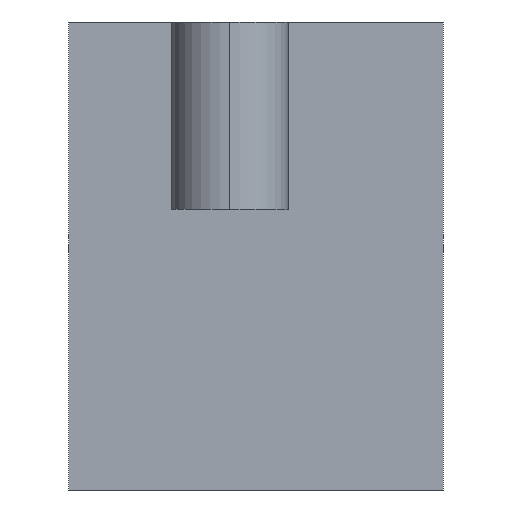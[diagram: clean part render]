
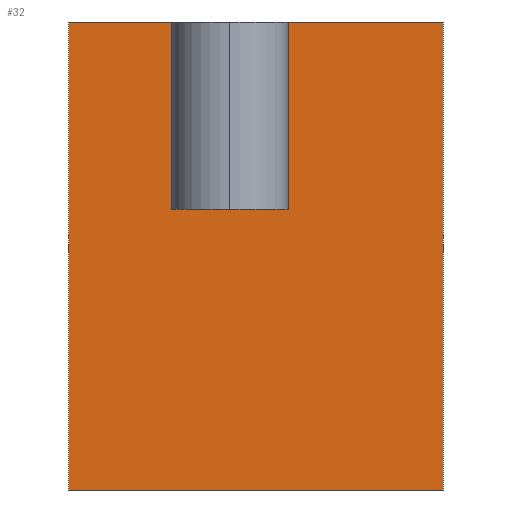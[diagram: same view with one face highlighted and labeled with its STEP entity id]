
A CAD part, left-side view. The second image highlights one B-rep face of the part: STEP entity #32.
In plain terms, the highlighted planar face has unit normal (-1, 0, 0).
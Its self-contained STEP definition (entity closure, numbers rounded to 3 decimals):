
#13 = LINE ( 'NONE', #257, #137 ) ;
#29 = CARTESIAN_POINT ( 'NONE',  ( 27.484, -43.554, -50. ) ) ;
#30 = FACE_OUTER_BOUND ( 'NONE', #92, .T. ) ;
#31 = ORIENTED_EDGE ( 'NONE', *, *, #262, .F. ) ;
#32 = ADVANCED_FACE ( 'NONE', ( #30 ), #208, .F. ) ;
#38 = LINE ( 'NONE', #314, #190 ) ;
#39 = CARTESIAN_POINT ( 'NONE',  ( 27.484, -3.554, 0. ) ) ;
#58 = CARTESIAN_POINT ( 'NONE',  ( 27.484, -43.554, 0. ) ) ;
#90 = DIRECTION ( 'NONE',  ( 0., 0., -1. ) ) ;
#92 = EDGE_LOOP ( 'NONE', ( #97, #31, #295, #114 ) ) ;
#97 = ORIENTED_EDGE ( 'NONE', *, *, #238, .T. ) ;
#109 = LINE ( 'NONE', #213, #143 ) ;
#111 = CARTESIAN_POINT ( 'NONE',  ( 27.484, -3.554, -50. ) ) ;
#114 = ORIENTED_EDGE ( 'NONE', *, *, #209, .T. ) ;
#119 = EDGE_CURVE ( 'NONE', #242, #181, #38, .T. ) ;
#137 = VECTOR ( 'NONE', #90, 1000. ) ;
#143 = VECTOR ( 'NONE', #313, 1000. ) ;
#167 = LINE ( 'NONE', #111, #207 ) ;
#181 = VERTEX_POINT ( 'NONE', #58 ) ;
#184 = DIRECTION ( 'NONE',  ( 0., -1., 0. ) ) ;
#190 = VECTOR ( 'NONE', #184, 1000. ) ;
#199 = DIRECTION ( 'NONE',  ( 1., 0., 0. ) ) ;
#207 = VECTOR ( 'NONE', #286, 1000. ) ;
#208 = PLANE ( 'NONE',  #261 ) ;
#209 = EDGE_CURVE ( 'NONE', #242, #297, #13, .T. ) ;
#213 = CARTESIAN_POINT ( 'NONE',  ( 27.484, -43.554, 0. ) ) ;
#238 = EDGE_CURVE ( 'NONE', #297, #318, #167, .T. ) ;
#242 = VERTEX_POINT ( 'NONE', #39 ) ;
#257 = CARTESIAN_POINT ( 'NONE',  ( 27.484, -3.554, 0. ) ) ;
#261 = AXIS2_PLACEMENT_3D ( 'NONE', #272, #199, #307 ) ;
#262 = EDGE_CURVE ( 'NONE', #181, #318, #109, .T. ) ;
#272 = CARTESIAN_POINT ( 'NONE',  ( 27.484, -3.554, 0. ) ) ;
#275 = CARTESIAN_POINT ( 'NONE',  ( 27.484, -3.554, -50. ) ) ;
#286 = DIRECTION ( 'NONE',  ( 0., -1., 0. ) ) ;
#295 = ORIENTED_EDGE ( 'NONE', *, *, #119, .F. ) ;
#297 = VERTEX_POINT ( 'NONE', #275 ) ;
#307 = DIRECTION ( 'NONE',  ( 0., 0., -1. ) ) ;
#313 = DIRECTION ( 'NONE',  ( 0., 0., -1. ) ) ;
#314 = CARTESIAN_POINT ( 'NONE',  ( 27.484, -3.554, 0. ) ) ;
#318 = VERTEX_POINT ( 'NONE', #29 ) ;
